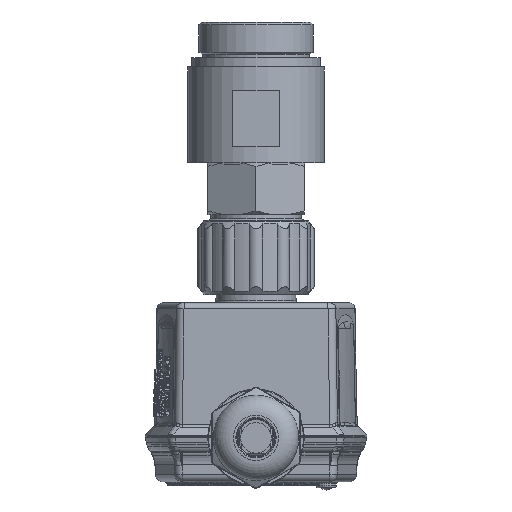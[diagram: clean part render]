
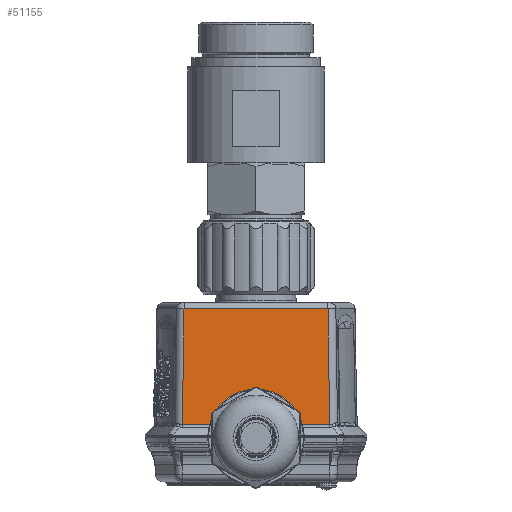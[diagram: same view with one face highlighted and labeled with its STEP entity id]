
A CAD part, front view. The second image highlights one B-rep face of the part: STEP entity #51155.
In plain terms, the highlighted planar face has unit normal (0, -1, 0.018).
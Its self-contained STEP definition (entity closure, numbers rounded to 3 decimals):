
#658=(
BOUNDED_CURVE()
B_SPLINE_CURVE(3,(#121646,#121647,#121648,#121649,#121650,#121651),
 .UNSPECIFIED.,.F.,.F.)
B_SPLINE_CURVE_WITH_KNOTS((4,2,4),(3.188,3.95,4.712),
 .UNSPECIFIED.)
CURVE()
GEOMETRIC_REPRESENTATION_ITEM()
RATIONAL_B_SPLINE_CURVE((1.,1.,1.,1.,1.,1.))
REPRESENTATION_ITEM('')
);
#659=(
BOUNDED_CURVE()
B_SPLINE_CURVE(3,(#121655,#121656,#121657,#121658,#121659,#121660),
 .UNSPECIFIED.,.F.,.F.)
B_SPLINE_CURVE_WITH_KNOTS((4,2,4),(1.571,2.333,3.095),
 .UNSPECIFIED.)
CURVE()
GEOMETRIC_REPRESENTATION_ITEM()
RATIONAL_B_SPLINE_CURVE((1.,1.,1.,1.,1.,1.))
REPRESENTATION_ITEM('')
);
#3753=LINE('',#121628,#6227);
#3754=LINE('',#121644,#6228);
#3755=LINE('',#121662,#6229);
#3756=LINE('',#121678,#6230);
#3757=LINE('',#121680,#6231);
#3758=LINE('',#121682,#6232);
#3759=LINE('',#121683,#6233);
#6227=VECTOR('',#62964,10.767);
#6228=VECTOR('',#62965,3.643);
#6229=VECTOR('',#62968,3.643);
#6230=VECTOR('',#62969,10.767);
#6231=VECTOR('',#62970,28.884);
#6232=VECTOR('',#62971,35.856);
#6233=VECTOR('',#62972,28.884);
#9169=B_SPLINE_CURVE_WITH_KNOTS('',3,(#121630,#121631,#121632,#121633,#121634,
#121635,#121636,#121637,#121638,#121639,#121640,#121641,#121642),
 .UNSPECIFIED.,.F.,.F.,(4,3,3,3,4),(5.107,5.384,5.651,
5.919,6.167),.UNSPECIFIED.);
#9170=B_SPLINE_CURVE_WITH_KNOTS('',3,(#121664,#121665,#121666,#121667,#121668,
#121669,#121670,#121671,#121672,#121673,#121674,#121675,#121676),
 .UNSPECIFIED.,.F.,.F.,(4,3,3,3,4),(0.116,0.381,
0.646,0.911,1.176),.UNSPECIFIED.);
#12930=FACE_OUTER_BOUND('',#16132,.T.);
#16132=EDGE_LOOP('',(#42426,#42427,#42428,#42429,#42430,#42431,#42432,#42433,
#42434,#42435,#42436,#42437));
#18256=CIRCLE('',#54576,12.2);
#22846=VERTEX_POINT('',#121626);
#22847=VERTEX_POINT('',#121627);
#22848=VERTEX_POINT('',#121629);
#22849=VERTEX_POINT('',#121643);
#22850=VERTEX_POINT('',#121645);
#22851=VERTEX_POINT('',#121652);
#22852=VERTEX_POINT('',#121654);
#22853=VERTEX_POINT('',#121661);
#22854=VERTEX_POINT('',#121663);
#22855=VERTEX_POINT('',#121677);
#22856=VERTEX_POINT('',#121679);
#22857=VERTEX_POINT('',#121681);
#29560=EDGE_CURVE('',#22846,#22847,#3753,.T.);
#29561=EDGE_CURVE('',#22847,#22848,#9169,.T.);
#29562=EDGE_CURVE('',#22848,#22849,#3754,.T.);
#29563=EDGE_CURVE('',#22850,#22849,#658,.T.);
#29564=EDGE_CURVE('',#22850,#22851,#18256,.T.);
#29565=EDGE_CURVE('',#22852,#22851,#659,.T.);
#29566=EDGE_CURVE('',#22852,#22853,#3755,.T.);
#29567=EDGE_CURVE('',#22853,#22854,#9170,.T.);
#29568=EDGE_CURVE('',#22854,#22855,#3756,.T.);
#29569=EDGE_CURVE('',#22855,#22856,#3757,.T.);
#29570=EDGE_CURVE('',#22856,#22857,#3758,.T.);
#29571=EDGE_CURVE('',#22857,#22846,#3759,.T.);
#42426=ORIENTED_EDGE('',*,*,#29560,.T.);
#42427=ORIENTED_EDGE('',*,*,#29561,.T.);
#42428=ORIENTED_EDGE('',*,*,#29562,.T.);
#42429=ORIENTED_EDGE('',*,*,#29563,.F.);
#42430=ORIENTED_EDGE('',*,*,#29564,.T.);
#42431=ORIENTED_EDGE('',*,*,#29565,.F.);
#42432=ORIENTED_EDGE('',*,*,#29566,.T.);
#42433=ORIENTED_EDGE('',*,*,#29567,.T.);
#42434=ORIENTED_EDGE('',*,*,#29568,.T.);
#42435=ORIENTED_EDGE('',*,*,#29569,.T.);
#42436=ORIENTED_EDGE('',*,*,#29570,.T.);
#42437=ORIENTED_EDGE('',*,*,#29571,.T.);
#46921=PLANE('',#54575);
#51155=ADVANCED_FACE('',(#12930),#46921,.T.);
#54575=AXIS2_PLACEMENT_3D('',#121625,#62962,#62963);
#54576=AXIS2_PLACEMENT_3D('',#121653,#62966,#62967);
#62962=DIRECTION('center_axis',(0.,-1.,0.017));
#62963=DIRECTION('ref_axis',(0.,-0.017,-1.));
#62964=DIRECTION('',(1.,0.,0.));
#62965=DIRECTION('',(0.,0.017,1.));
#62966=DIRECTION('center_axis',(0.,1.,
-0.017));
#62967=DIRECTION('ref_axis',(0.047,0.017,0.999));
#62968=DIRECTION('',(0.,-0.017,-1.));
#62969=DIRECTION('',(1.,0.,0.));
#62970=DIRECTION('',(-0.014,0.017,1.));
#62971=DIRECTION('',(-1.,0.,0.));
#62972=DIRECTION('',(-0.014,-0.017,-1.));
#121625=CARTESIAN_POINT('Origin',(20.,-23.,-33.5));
#121626=CARTESIAN_POINT('',(-18.336,-22.945,-30.35));
#121627=CARTESIAN_POINT('',(-7.569,-22.945,-30.35));
#121628=CARTESIAN_POINT('',(-7.503,-22.945,-30.35));
#121629=CARTESIAN_POINT('',(-0.95,-22.858,-25.359));
#121630=CARTESIAN_POINT('Ctrl Pts',(-7.569,-22.945,
-30.35));
#121631=CARTESIAN_POINT('Ctrl Pts',(-7.292,-22.933,
-29.684));
#121632=CARTESIAN_POINT('Ctrl Pts',(-6.914,-22.922,
-29.03));
#121633=CARTESIAN_POINT('Ctrl Pts',(-6.443,-22.912,
-28.431));
#121634=CARTESIAN_POINT('Ctrl Pts',(-5.988,-22.901,
-27.853));
#121635=CARTESIAN_POINT('Ctrl Pts',(-5.446,-22.892,
-27.328));
#121636=CARTESIAN_POINT('Ctrl Pts',(-4.843,-22.885,
-26.886));
#121637=CARTESIAN_POINT('Ctrl Pts',(-4.238,-22.877,
-26.444));
#121638=CARTESIAN_POINT('Ctrl Pts',(-3.573,-22.871,
-26.086));
#121639=CARTESIAN_POINT('Ctrl Pts',(-2.885,-22.866,
-25.828));
#121640=CARTESIAN_POINT('Ctrl Pts',(-2.248,-22.862,
-25.588));
#121641=CARTESIAN_POINT('Ctrl Pts',(-1.593,-22.859,
-25.434));
#121642=CARTESIAN_POINT('Ctrl Pts',(-0.95,-22.858,
-25.359));
#121643=CARTESIAN_POINT('',(-0.95,-22.794,-21.716));
#121644=CARTESIAN_POINT('',(-0.95,-23.,-33.5));
#121645=CARTESIAN_POINT('',(-0.569,-22.787,-21.317));
#121646=CARTESIAN_POINT('Ctrl Pts',(-0.569,-22.787,
-21.317));
#121647=CARTESIAN_POINT('Ctrl Pts',(-0.67,-22.787,
-21.321));
#121648=CARTESIAN_POINT('Ctrl Pts',(-0.769,-22.788,
-21.367));
#121649=CARTESIAN_POINT('Ctrl Pts',(-0.91,-22.791,
-21.514));
#121650=CARTESIAN_POINT('Ctrl Pts',(-0.95,-22.793,
-21.614));
#121651=CARTESIAN_POINT('Ctrl Pts',(-0.95,-22.794,-21.716));
#121652=CARTESIAN_POINT('',(0.569,-22.787,-21.317));
#121653=CARTESIAN_POINT('Origin',(0.,-23.,
-33.502));
#121654=CARTESIAN_POINT('',(0.95,-22.794,-21.716));
#121655=CARTESIAN_POINT('Ctrl Pts',(0.95,-22.794,-21.716));
#121656=CARTESIAN_POINT('Ctrl Pts',(0.95,-22.793,
-21.614));
#121657=CARTESIAN_POINT('Ctrl Pts',(0.91,-22.791,
-21.514));
#121658=CARTESIAN_POINT('Ctrl Pts',(0.769,-22.788,
-21.367));
#121659=CARTESIAN_POINT('Ctrl Pts',(0.67,-22.787,
-21.321));
#121660=CARTESIAN_POINT('Ctrl Pts',(0.569,-22.787,
-21.317));
#121661=CARTESIAN_POINT('',(0.95,-22.858,-25.359));
#121662=CARTESIAN_POINT('',(0.95,-23.,-33.5));
#121663=CARTESIAN_POINT('',(7.569,-22.945,-30.35));
#121664=CARTESIAN_POINT('Ctrl Pts',(0.95,-22.858,
-25.359));
#121665=CARTESIAN_POINT('Ctrl Pts',(1.669,-22.859,
-25.443));
#121666=CARTESIAN_POINT('Ctrl Pts',(2.378,-22.862,
-25.622));
#121667=CARTESIAN_POINT('Ctrl Pts',(3.05,-22.867,
-25.892));
#121668=CARTESIAN_POINT('Ctrl Pts',(3.722,-22.872,
-26.161));
#121669=CARTESIAN_POINT('Ctrl Pts',(4.359,-22.878,
-26.52));
#121670=CARTESIAN_POINT('Ctrl Pts',(4.937,-22.886,
-26.956));
#121671=CARTESIAN_POINT('Ctrl Pts',(5.515,-22.893,-27.392));
#121672=CARTESIAN_POINT('Ctrl Pts',(6.035,-22.902,
-27.906));
#121673=CARTESIAN_POINT('Ctrl Pts',(6.479,-22.912,
-28.478));
#121674=CARTESIAN_POINT('Ctrl Pts',(6.923,-22.922,
-29.05));
#121675=CARTESIAN_POINT('Ctrl Pts',(7.291,-22.933,
-29.682));
#121676=CARTESIAN_POINT('Ctrl Pts',(7.569,-22.945,-30.35));
#121677=CARTESIAN_POINT('',(18.336,-22.945,-30.35));
#121678=CARTESIAN_POINT('',(18.341,-22.945,-30.35));
#121679=CARTESIAN_POINT('',(17.928,-22.441,-1.474));
#121680=CARTESIAN_POINT('',(18.381,-23.,-33.523));
#121681=CARTESIAN_POINT('',(-17.928,-22.441,-1.474));
#121682=CARTESIAN_POINT('',(-17.907,-22.441,-1.474));
#121683=CARTESIAN_POINT('',(-18.373,-22.991,-32.958));
